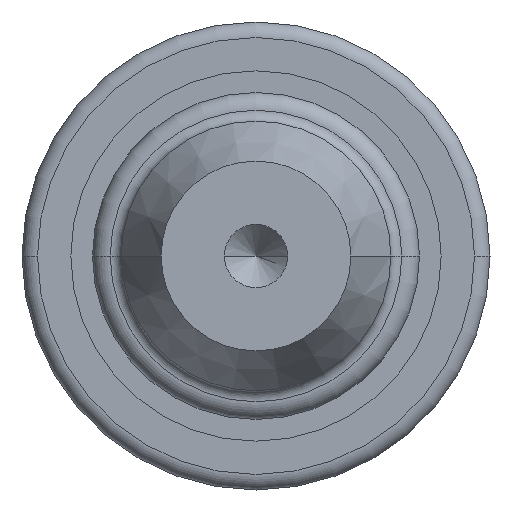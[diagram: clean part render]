
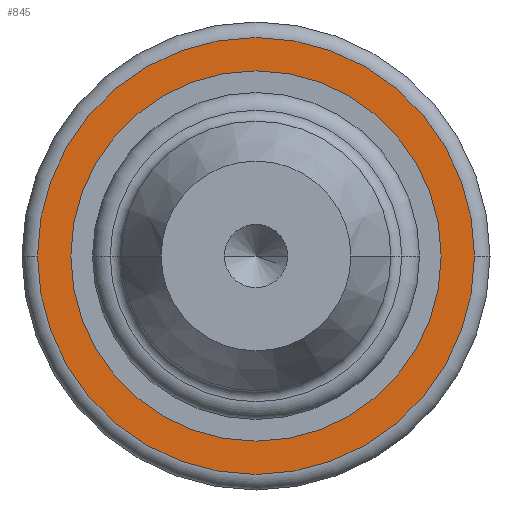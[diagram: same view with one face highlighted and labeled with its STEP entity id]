
A CAD part, front view. The second image highlights one B-rep face of the part: STEP entity #845.
In plain terms, the highlighted planar face has unit normal (0, -1, 0).
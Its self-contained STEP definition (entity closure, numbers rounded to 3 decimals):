
#264=CARTESIAN_POINT('',(0.,-0.432,0.));
#265=DIRECTION('',(0.,-1.,0.));
#266=DIRECTION('',(1.,0.,0.));
#267=AXIS2_PLACEMENT_3D('',#264,#265,#266);
#269=CARTESIAN_POINT('',(0.,-0.432,0.));
#270=DIRECTION('',(0.,1.,0.));
#271=DIRECTION('',(1.,0.,0.));
#272=AXIS2_PLACEMENT_3D('',#269,#270,#271);
#284=CARTESIAN_POINT('',(0.,-0.432,0.));
#285=DIRECTION('',(0.,1.,0.));
#286=DIRECTION('',(1.,0.,0.));
#287=AXIS2_PLACEMENT_3D('',#284,#285,#286);
#289=CARTESIAN_POINT('',(0.,-0.432,0.));
#290=DIRECTION('',(0.,-1.,0.));
#291=DIRECTION('',(1.,0.,0.));
#292=AXIS2_PLACEMENT_3D('',#289,#290,#291);
#351=CARTESIAN_POINT('',(2.057,-0.432,0.));
#353=VERTEX_POINT('',#351);
#359=CARTESIAN_POINT('',(-2.057,-0.432,0.));
#361=VERTEX_POINT('',#359);
#424=CARTESIAN_POINT('',(2.427,-0.432,0.));
#425=VERTEX_POINT('',#424);
#428=CARTESIAN_POINT('',(-2.427,-0.432,0.));
#429=VERTEX_POINT('',#428);
#830=CARTESIAN_POINT('',(0.,-0.432,0.));
#831=DIRECTION('',(0.,-1.,0.));
#832=DIRECTION('',(-1.,0.,0.));
#833=AXIS2_PLACEMENT_3D('',#830,#831,#832);
#834=PLANE('',#833);
#836=ORIENTED_EDGE('',*,*,#835,.T.);
#838=ORIENTED_EDGE('',*,*,#837,.F.);
#839=EDGE_LOOP('',(#836,#838));
#840=FACE_OUTER_BOUND('',#839,.F.);
#841=ORIENTED_EDGE('',*,*,#825,.T.);
#842=ORIENTED_EDGE('',*,*,#809,.F.);
#843=EDGE_LOOP('',(#841,#842));
#844=FACE_BOUND('',#843,.F.);
#845=ADVANCED_FACE('',(#840,#844),#834,.T.);
#268=CIRCLE('',#267,2.057);
#273=CIRCLE('',#272,2.057);
#288=CIRCLE('',#287,2.427);
#293=CIRCLE('',#292,2.427);
#809=EDGE_CURVE('',#353,#361,#273,.T.);
#825=EDGE_CURVE('',#353,#361,#268,.T.);
#835=EDGE_CURVE('',#425,#429,#288,.T.);
#837=EDGE_CURVE('',#425,#429,#293,.T.);
